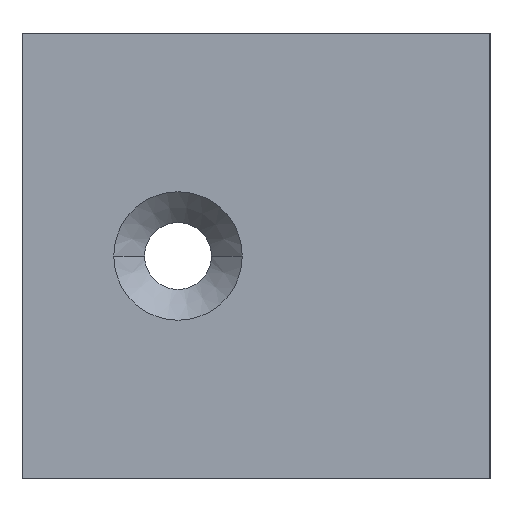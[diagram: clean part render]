
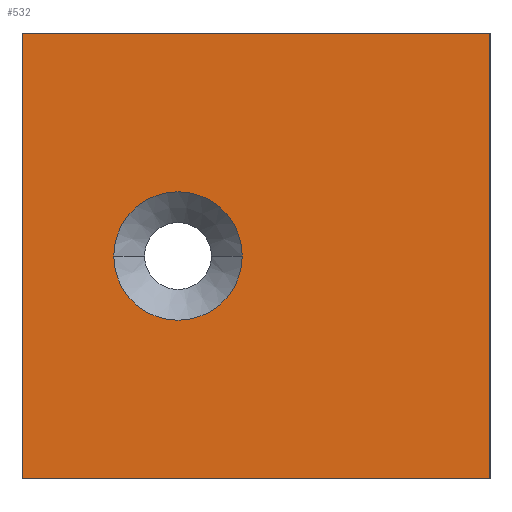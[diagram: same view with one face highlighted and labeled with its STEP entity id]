
A CAD part, left-side view. The second image highlights one B-rep face of the part: STEP entity #532.
In plain terms, the highlighted planar face has unit normal (-1, 0, 0).
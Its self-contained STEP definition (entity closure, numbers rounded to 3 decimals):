
#1 = LINE ( 'NONE', #198, #450 ) ;
#5 = VECTOR ( 'NONE', #156, 1000. ) ;
#23 = CARTESIAN_POINT ( 'NONE',  ( -62.5, 31.5, 0. ) ) ;
#25 = EDGE_CURVE ( 'NONE', #355, #208, #577, .T. ) ;
#39 = CARTESIAN_POINT ( 'NONE',  ( -62.5, 1.85, 30. ) ) ;
#45 = EDGE_CURVE ( 'NONE', #636, #134, #1, .T. ) ;
#60 = DIRECTION ( 'NONE',  ( 0., 0., 1. ) ) ;
#64 = FACE_BOUND ( 'NONE', #230, .T. ) ;
#129 = ORIENTED_EDGE ( 'NONE', *, *, #45, .F. ) ;
#134 = VERTEX_POINT ( 'NONE', #367 ) ;
#156 = DIRECTION ( 'NONE',  ( 0., 0., 1. ) ) ;
#180 = CARTESIAN_POINT ( 'NONE',  ( -62.5, 31.5, 60. ) ) ;
#182 = DIRECTION ( 'NONE',  ( 0., 1., 0. ) ) ;
#186 = CARTESIAN_POINT ( 'NONE',  ( -62.5, 31.5, 0. ) ) ;
#198 = CARTESIAN_POINT ( 'NONE',  ( -62.5, -31.5, 60. ) ) ;
#202 = ORIENTED_EDGE ( 'NONE', *, *, #622, .F. ) ;
#205 = DIRECTION ( 'NONE',  ( 0., -1., 0. ) ) ;
#208 = VERTEX_POINT ( 'NONE', #39 ) ;
#230 = EDGE_LOOP ( 'NONE', ( #470, #524 ) ) ;
#256 = FACE_OUTER_BOUND ( 'NONE', #472, .T. ) ;
#271 = AXIS2_PLACEMENT_3D ( 'NONE', #358, #689, #468 ) ;
#273 = CARTESIAN_POINT ( 'NONE',  ( -62.5, 10.5, 30. ) ) ;
#330 = VECTOR ( 'NONE', #426, 1000. ) ;
#333 = CARTESIAN_POINT ( 'NONE',  ( -62.5, 31.5, 60. ) ) ;
#349 = AXIS2_PLACEMENT_3D ( 'NONE', #180, #362, #182 ) ;
#355 = VERTEX_POINT ( 'NONE', #397 ) ;
#358 = CARTESIAN_POINT ( 'NONE',  ( -62.5, 10.5, 30. ) ) ;
#362 = DIRECTION ( 'NONE',  ( 1., 0., 0. ) ) ;
#367 = CARTESIAN_POINT ( 'NONE',  ( -62.5, -31.5, 60. ) ) ;
#389 = DIRECTION ( 'NONE',  ( -1., 0., 0. ) ) ;
#397 = CARTESIAN_POINT ( 'NONE',  ( -62.5, 19.15, 30. ) ) ;
#426 = DIRECTION ( 'NONE',  ( 0., 1., 0. ) ) ;
#443 = DIRECTION ( 'NONE',  ( 0., -1., 0. ) ) ;
#450 = VECTOR ( 'NONE', #205, 1000. ) ;
#468 = DIRECTION ( 'NONE',  ( 0., -1., 0. ) ) ;
#469 = VERTEX_POINT ( 'NONE', #186 ) ;
#470 = ORIENTED_EDGE ( 'NONE', *, *, #732, .F. ) ;
#472 = EDGE_LOOP ( 'NONE', ( #586, #202, #736, #129 ) ) ;
#473 = LINE ( 'NONE', #23, #330 ) ;
#493 = EDGE_CURVE ( 'NONE', #516, #134, #568, .T. ) ;
#515 = CARTESIAN_POINT ( 'NONE',  ( -62.5, -31.5, 60. ) ) ;
#516 = VERTEX_POINT ( 'NONE', #692 ) ;
#524 = ORIENTED_EDGE ( 'NONE', *, *, #25, .F. ) ;
#532 = ADVANCED_FACE ( 'NONE', ( #64, #256 ), #630, .F. ) ;
#539 = LINE ( 'NONE', #333, #5 ) ;
#568 = LINE ( 'NONE', #515, #675 ) ;
#577 = CIRCLE ( 'NONE', #271, 8.65 ) ;
#586 = ORIENTED_EDGE ( 'NONE', *, *, #723, .F. ) ;
#600 = CARTESIAN_POINT ( 'NONE',  ( -62.5, 31.5, 60. ) ) ;
#622 = EDGE_CURVE ( 'NONE', #516, #469, #473, .T. ) ;
#630 = PLANE ( 'NONE',  #349 ) ;
#636 = VERTEX_POINT ( 'NONE', #600 ) ;
#675 = VECTOR ( 'NONE', #60, 1000. ) ;
#689 = DIRECTION ( 'NONE',  ( -1., 0., 0. ) ) ;
#692 = CARTESIAN_POINT ( 'NONE',  ( -62.5, -31.5, 0. ) ) ;
#704 = CIRCLE ( 'NONE', #726, 8.65 ) ;
#723 = EDGE_CURVE ( 'NONE', #469, #636, #539, .T. ) ;
#726 = AXIS2_PLACEMENT_3D ( 'NONE', #273, #389, #443 ) ;
#732 = EDGE_CURVE ( 'NONE', #208, #355, #704, .T. ) ;
#736 = ORIENTED_EDGE ( 'NONE', *, *, #493, .T. ) ;
